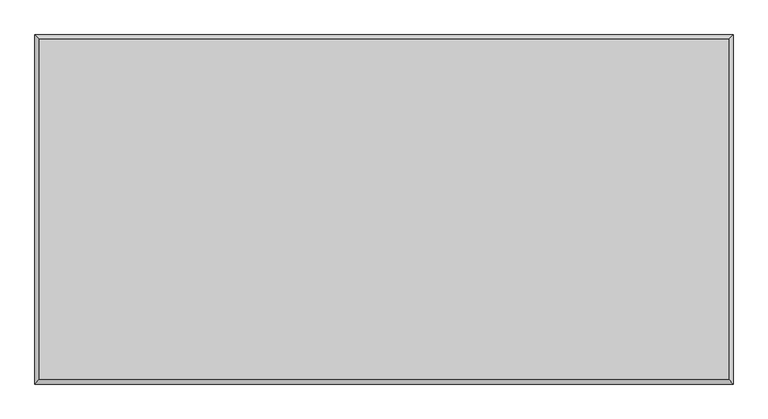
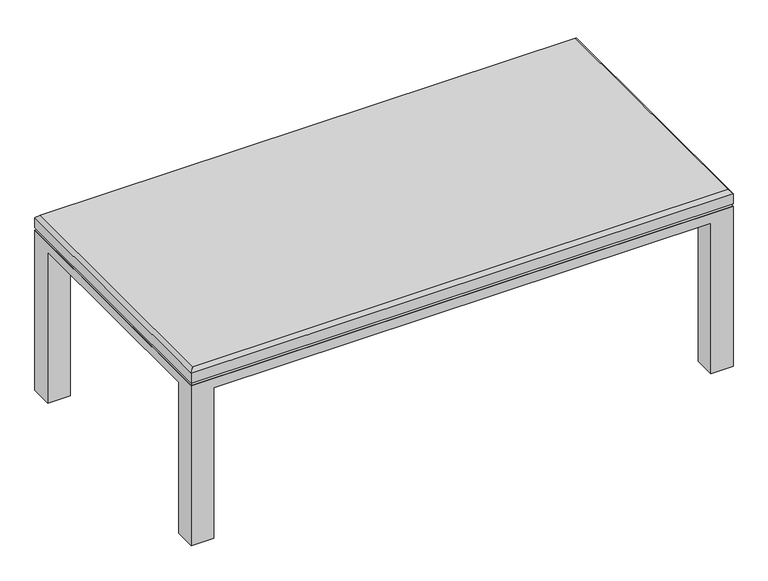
"""IFC4 building model written with IfcOpenShell, lengths in millimetres: furniture geometry, Steelcase Coalesse - Swathmore Plus - Beveled : 24D x 48W x 16 1/2H - Glass Top."""

from ifc_helpers import new_model, si_unit, origin, place, context, project, spatial, faceted_brep, source, transform, mapped, element, save


def furniture_97a01677(model_context):
    return source(origin(), model_context, "Body", "Brep", [
        faceted_brep([(1219.2, 0.0, 381.0), (0.0, 0.0, 381.0), (0.0, -609.6, 381.0), (1219.2, -609.6, 381.0), (1219.2, -50.1297163, 358.7750121), (1219.2, -559.7013016, 358.7750121), (1169.0734085, -559.7013016, 358.7750121), (1169.0734085, -559.4702837, 358.7750121), (1212.8498062, -559.4702837, 358.7750121), (1212.8498062, -50.1297163, 358.7750121), (1169.0734085, -609.6, 358.7750121), (50.1812393, -609.6, 358.7750121), (50.1812393, -559.7013016, 358.7750121), (0.0, -559.7013016, 358.7750121), (0.0, -50.1297163, 358.7750121), (6.3501938, -50.1297163, 358.7750121), (6.3501938, -559.4702837, 358.7750121), (50.8001938, -559.4702837, 358.7750121), (50.8001938, -603.2496318, 358.7750121), (1169.0734085, -603.2496318, 358.7750121), (50.1812393, 0.0, 358.7750121), (1169.0734085, 0.0, 358.7750121), (1169.0734085, -6.3503682, 358.7750121), (50.8001938, -6.3503682, 358.7750121), (50.8001938, -50.1297163, 358.7750121), (50.1812393, -50.1297163, 358.7750121), (1219.2, 0.0, 0.0), (1169.0734085, 0.0, 0.0), (50.1812393, 0.0, 0.0), (0.0, 0.0, 0.0), (0.0, -50.1297163, 0.0), (0.0, -559.7013016, 0.0), (0.0, -609.6, 0.0), (50.1812393, -609.6, 0.0), (1169.0734085, -609.6, 0.0), (1219.2, -609.6, 0.0), (1219.2, -559.7013016, 0.0), (1219.2, -50.1297163, 0.0), (50.1812393, -50.1297163, 0.0), (50.1812393, -559.7013016, 0.0), (1169.0734085, -50.1297163, 0.0), (1169.0734085, -559.7013016, 0.0), (50.1812393, -559.7013016, 336.5499879), (1169.0734085, -50.1297163, 336.5499879), (1169.0734085, -28.575, 336.5499879), (1190.625, -50.1297163, 336.5499879), (1169.0734085, -559.7013016, 336.5499879), (1169.0734085, -581.025, 336.5499879), (50.7998062, -50.8000242, 336.5499879), (50.7998062, -28.575, 336.5499879), (1190.625, -559.7013016, 336.5499879), (50.1812393, -581.025, 336.5499879), (50.1812393, -559.7013016, 336.5499879), (28.5708422, -559.7013016, 336.5499879), (28.5708422, -50.8000242, 336.5499879)], [[[0, 1, 2, 3]], [[4, 5, 6, 7, 8, 9]], [[10, 11, 12, 13, 14, 15, 16, 17, 18, 19]], [[20, 21, 22, 23, 24, 25]], [[1, 0, 26, 27, 21, 20, 28, 29]], [[2, 1, 29, 30, 14, 13, 31, 32]], [[3, 2, 32, 33, 11, 10, 34, 35]], [[0, 3, 35, 36, 5, 4, 37, 26]], [[28, 38, 30, 29]], [[33, 32, 31, 39]], [[26, 37, 40, 27]], [[36, 35, 34, 41]], [[30, 38, 25, 15, 14]], [[38, 28, 20, 25]], [[33, 39, 42, 12, 11]], [[39, 31, 13, 12, 42]], [[27, 40, 43, 44, 22, 21]], [[40, 37, 4, 9, 45, 43]], [[36, 41, 46, 6, 5]], [[41, 34, 10, 19, 47, 46]], [[48, 49, 44, 43, 45, 50, 46, 47, 51, 52, 53, 54]], [[48, 54, 15, 25, 24]], [[54, 53, 16, 15]], [[53, 52, 17, 16]], [[52, 51, 18, 17]], [[51, 47, 19, 18]], [[46, 7, 6]], [[46, 50, 8, 7]], [[50, 45, 9, 8]], [[44, 49, 23, 22]], [[49, 48, 24, 23]]]),
        faceted_brep([(1219.2, -609.6, 411.1625121), (1219.2, -609.6, 387.3500121), (1219.2, 0.0, 387.3500121), (1219.2, 0.0, 411.1625121), (0.0, 0.0, 411.1625121), (0.0, 0.0, 387.3500121), (0.0, -609.6, 387.3500121), (0.0, -609.6, 411.1625121), (1211.2626938, -7.9375242, 419.1), (7.9373062, -7.9375242, 419.1), (7.9373062, -601.6625484, 419.1), (1211.2626938, -601.6625484, 419.1)], [[[0, 1, 2, 3]], [[4, 5, 6, 7]], [[1, 0, 7, 6]], [[2, 1, 6, 5]], [[3, 2, 5, 4]], [[8, 9, 10, 11]], [[8, 11, 0, 3]], [[11, 10, 7, 0]], [[10, 9, 4, 7]], [[9, 8, 3, 4]]]),
        faceted_brep([(1219.2, 0.0, 381.0), (1219.2, -609.6, 381.0), (0.0, -609.6, 381.0), (0.0, 0.0, 381.0), (1212.8498062, -6.3499758, 387.3500121), (6.3501938, -6.3499758, 387.3500121), (6.3501938, -603.2496318, 387.3500121), (1212.8498062, -603.2496318, 387.3500121)], [[[0, 1, 2, 3]], [[4, 5, 6, 7]], [[4, 7, 1, 0]], [[7, 6, 2, 1]], [[6, 5, 3, 2]], [[5, 4, 0, 3]]]),
    ])


if __name__ == "__main__":
    model = new_model("IFC4")
    model_context = context("Model", 3, world=origin())
    ifc_project = project(units=[si_unit("LENGTHUNIT", "METRE", prefix="MILLI")], contexts=[model_context])
    site = spatial("IfcSite", under=ifc_project)
    building = spatial("IfcBuilding", under=site)
    placement = place(None, origin())
    furniture_shape = furniture_97a01677(model_context)
    element("IfcFurniture", 1, ObjectType="Steelcase Coalesse - Swathmore Plus - Beveled : 24D x 48W x 16 1/2H - Glass Top", at=placement, inside=building, context=model_context, shape_type="MappedRepresentation", body=[
        mapped(furniture_shape, transform((0.0, 0.0, 0.0), x_axis=(1.0, 0.0, 0.0), y_axis=(0.0, 1.0, 0.0), z_axis=(0.0, 0.0, 1.0))),
    ])
    save(model, "model.ifc")
